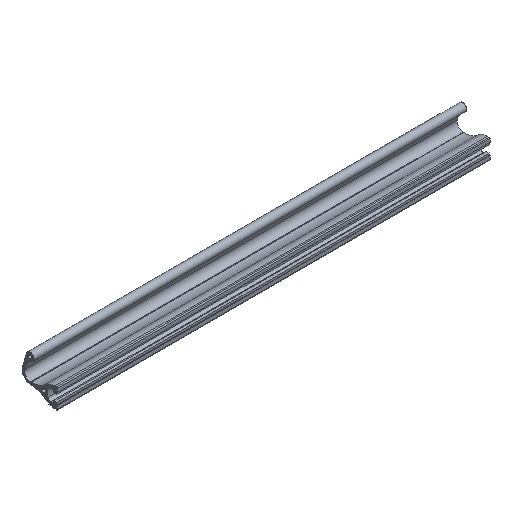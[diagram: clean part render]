
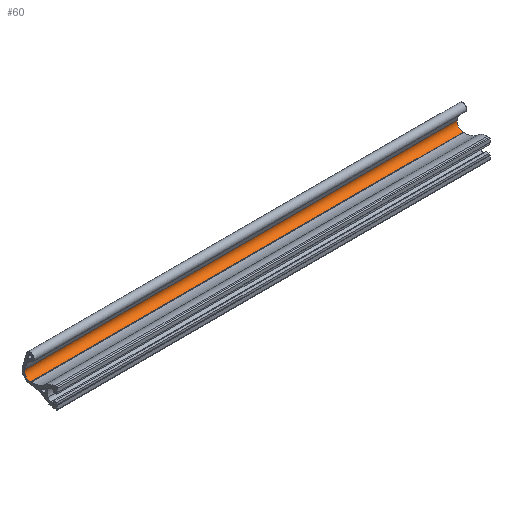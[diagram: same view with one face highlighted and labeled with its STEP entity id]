
A CAD part, isometric view. The second image highlights one B-rep face of the part: STEP entity #60.
In plain terms, the highlighted cylindrical face has radius 7 mm (diameter 14 mm), a partial arc.
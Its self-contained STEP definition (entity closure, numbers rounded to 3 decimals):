
#60 = ADVANCED_FACE ( 'NONE', ( #641 ), #1006, .F. ) ;
#70 = VERTEX_POINT ( 'NONE', #2087 ) ;
#91 = EDGE_LOOP ( 'NONE', ( #1975, #2136, #426, #547 ) ) ;
#103 = CIRCLE ( 'NONE', #1606, 7. ) ;
#111 = AXIS2_PLACEMENT_3D ( 'NONE', #1874, #1348, #666 ) ;
#124 = DIRECTION ( 'NONE',  ( -1., 0., 0. ) ) ;
#160 = CARTESIAN_POINT ( 'NONE',  ( 250., 37.722, -0.046 ) ) ;
#200 = EDGE_CURVE ( 'NONE', #2262, #631, #1200, .T. ) ;
#269 = DIRECTION ( 'NONE',  ( -1., 0., 0. ) ) ;
#426 = ORIENTED_EDGE ( 'NONE', *, *, #2038, .F. ) ;
#547 = ORIENTED_EDGE ( 'NONE', *, *, #1193, .T. ) ;
#631 = VERTEX_POINT ( 'NONE', #2255 ) ;
#641 = FACE_OUTER_BOUND ( 'NONE', #91, .T. ) ;
#666 = DIRECTION ( 'NONE',  ( 0., 0., 1. ) ) ;
#761 = CARTESIAN_POINT ( 'NONE',  ( 250., 31.146, -8.996 ) ) ;
#809 = VECTOR ( 'NONE', #269, 1000. ) ;
#815 = DIRECTION ( 'NONE',  ( -1., 0., 0. ) ) ;
#863 = CARTESIAN_POINT ( 'NONE',  ( -250., 37.722, -0.046 ) ) ;
#937 = VERTEX_POINT ( 'NONE', #160 ) ;
#940 = DIRECTION ( 'NONE',  ( 0., 0., 1. ) ) ;
#1006 = CYLINDRICAL_SURFACE ( 'NONE', #1240, 7. ) ;
#1119 = LINE ( 'NONE', #1807, #809 ) ;
#1193 = EDGE_CURVE ( 'NONE', #937, #2262, #1119, .T. ) ;
#1200 = CIRCLE ( 'NONE', #111, 7. ) ;
#1240 = AXIS2_PLACEMENT_3D ( 'NONE', #1910, #815, #2040 ) ;
#1348 = DIRECTION ( 'NONE',  ( -1., 0., 0. ) ) ;
#1429 = DIRECTION ( 'NONE',  ( -1., 0., 0. ) ) ;
#1440 = CARTESIAN_POINT ( 'NONE',  ( 250., 31., -1.998 ) ) ;
#1606 = AXIS2_PLACEMENT_3D ( 'NONE', #1440, #1429, #940 ) ;
#1772 = EDGE_CURVE ( 'NONE', #70, #631, #1833, .T. ) ;
#1807 = CARTESIAN_POINT ( 'NONE',  ( 250., 37.722, -0.046 ) ) ;
#1833 = LINE ( 'NONE', #761, #1958 ) ;
#1874 = CARTESIAN_POINT ( 'NONE',  ( -250., 31., -1.998 ) ) ;
#1910 = CARTESIAN_POINT ( 'NONE',  ( 250., 31., -1.998 ) ) ;
#1958 = VECTOR ( 'NONE', #124, 1000. ) ;
#1975 = ORIENTED_EDGE ( 'NONE', *, *, #200, .T. ) ;
#2038 = EDGE_CURVE ( 'NONE', #937, #70, #103, .T. ) ;
#2040 = DIRECTION ( 'NONE',  ( 0., 0., 1. ) ) ;
#2087 = CARTESIAN_POINT ( 'NONE',  ( 250., 31.146, -8.996 ) ) ;
#2136 = ORIENTED_EDGE ( 'NONE', *, *, #1772, .F. ) ;
#2255 = CARTESIAN_POINT ( 'NONE',  ( -250., 31.146, -8.996 ) ) ;
#2262 = VERTEX_POINT ( 'NONE', #863 ) ;
